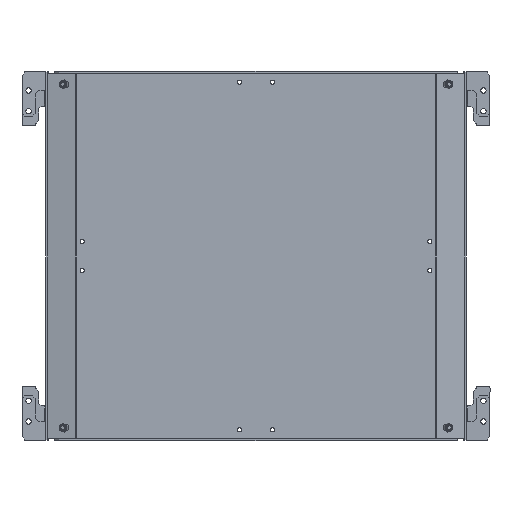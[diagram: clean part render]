
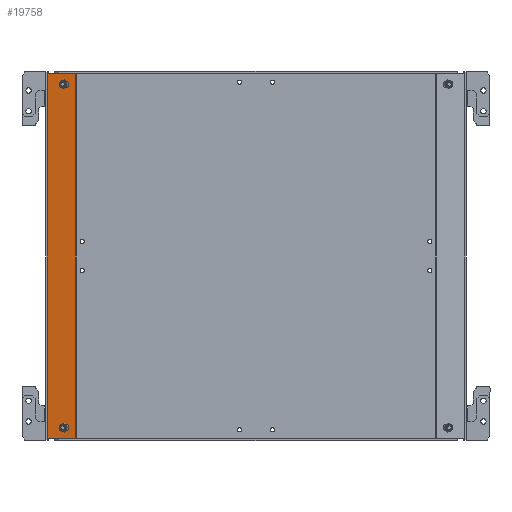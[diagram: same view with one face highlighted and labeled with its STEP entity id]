
A CAD part, left-side view. The second image highlights one B-rep face of the part: STEP entity #19758.
In plain terms, the highlighted planar face has unit normal (-0.985, 0.174, 0).
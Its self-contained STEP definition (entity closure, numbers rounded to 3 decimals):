
#72 = CARTESIAN_POINT ( 'NONE',  ( 1099.568, 231.306, 337.754 ) ) ;
#488 = DIRECTION ( 'NONE',  ( 0., 0., 1. ) ) ;
#585 = CARTESIAN_POINT ( 'NONE',  ( 1099.568, 231.306, -87.754 ) ) ;
#619 = LINE ( 'NONE', #23181, #22279 ) ;
#775 = LINE ( 'NONE', #24530, #4764 ) ;
#809 = VERTEX_POINT ( 'NONE', #19647 ) ;
#883 = EDGE_CURVE ( 'NONE', #23611, #2273, #3952, .T. ) ;
#1159 = LINE ( 'NONE', #9237, #14585 ) ;
#1186 = CARTESIAN_POINT ( 'NONE',  ( 1097.227, 218.028, -98.79 ) ) ;
#1764 = EDGE_CURVE ( 'NONE', #13448, #7759, #24297, .T. ) ;
#1798 = ORIENTED_EDGE ( 'NONE', *, *, #14458, .T. ) ;
#1878 = VECTOR ( 'NONE', #22446, 1000. ) ;
#1939 = VECTOR ( 'NONE', #12285, 1000. ) ;
#2087 = EDGE_LOOP ( 'NONE', ( #14485, #17576, #24304, #14539, #22186, #3738 ) ) ;
#2096 = CARTESIAN_POINT ( 'NONE',  ( 1103.304, 252.496, 125. ) ) ;
#2273 = VERTEX_POINT ( 'NONE', #14883 ) ;
#2472 = VECTOR ( 'NONE', #9526, 1000. ) ;
#2577 = CARTESIAN_POINT ( 'NONE',  ( 1100.358, 235.786, 329.873 ) ) ;
#3002 = VECTOR ( 'NONE', #4891, 1000. ) ;
#3206 = VERTEX_POINT ( 'NONE', #16652 ) ;
#3241 = EDGE_LOOP ( 'NONE', ( #23695, #4630, #15464, #5842, #17017, #4871 ) ) ;
#3437 = VECTOR ( 'NONE', #16903, 1000. ) ;
#3559 = EDGE_CURVE ( 'NONE', #19703, #17203, #16851, .T. ) ;
#3585 = CARTESIAN_POINT ( 'NONE',  ( 1098.778, 226.825, 329.873 ) ) ;
#3738 = ORIENTED_EDGE ( 'NONE', *, *, #883, .F. ) ;
#3952 = LINE ( 'NONE', #10045, #1939 ) ;
#4087 = FACE_BOUND ( 'NONE', #24885, .T. ) ;
#4119 = ORIENTED_EDGE ( 'NONE', *, *, #19627, .T. ) ;
#4154 = CARTESIAN_POINT ( 'NONE',  ( 1099.568, 231.306, -87.754 ) ) ;
#4253 = VECTOR ( 'NONE', #14434, 1000. ) ;
#4292 = CARTESIAN_POINT ( 'NONE',  ( 1102.867, 250.017, 345. ) ) ;
#4396 = CARTESIAN_POINT ( 'NONE',  ( 1099.568, 231.306, 327.246 ) ) ;
#4630 = ORIENTED_EDGE ( 'NONE', *, *, #18045, .T. ) ;
#4764 = VECTOR ( 'NONE', #12804, 1000. ) ;
#4871 = ORIENTED_EDGE ( 'NONE', *, *, #8366, .F. ) ;
#4891 = DIRECTION ( 'NONE',  ( 0.174, 0.985, 0. ) ) ;
#5007 = ORIENTED_EDGE ( 'NONE', *, *, #3559, .T. ) ;
#5437 = LINE ( 'NONE', #11639, #23174 ) ;
#5804 = EDGE_CURVE ( 'NONE', #24309, #9194, #775, .T. ) ;
#5842 = ORIENTED_EDGE ( 'NONE', *, *, #5804, .T. ) ;
#6061 = ORIENTED_EDGE ( 'NONE', *, *, #8273, .T. ) ;
#6206 = CARTESIAN_POINT ( 'NONE',  ( 1100.358, 235.786, 335.127 ) ) ;
#6511 = LINE ( 'NONE', #14175, #18844 ) ;
#6551 = CARTESIAN_POINT ( 'NONE',  ( 1099.568, 231.306, -77.246 ) ) ;
#7261 = DIRECTION ( 'NONE',  ( 0.15, 0.853, 0.5 ) ) ;
#7388 = VERTEX_POINT ( 'NONE', #585 ) ;
#7749 = VECTOR ( 'NONE', #24542, 1000. ) ;
#7759 = VERTEX_POINT ( 'NONE', #10615 ) ;
#7961 = DIRECTION ( 'NONE',  ( 0.15, 0.853, -0.5 ) ) ;
#8091 = VECTOR ( 'NONE', #12263, 1000. ) ;
#8213 = CARTESIAN_POINT ( 'NONE',  ( 1100.358, 235.786, -79.873 ) ) ;
#8273 = EDGE_CURVE ( 'NONE', #24208, #10126, #11355, .T. ) ;
#8366 = EDGE_CURVE ( 'NONE', #25849, #14814, #13077, .T. ) ;
#8737 = VECTOR ( 'NONE', #24271, 1000. ) ;
#9194 = VERTEX_POINT ( 'NONE', #23638 ) ;
#9237 = CARTESIAN_POINT ( 'NONE',  ( 1099.568, 231.306, 327.246 ) ) ;
#9446 = DIRECTION ( 'NONE',  ( 0.174, 0.985, 0. ) ) ;
#9526 = DIRECTION ( 'NONE',  ( -0.15, -0.853, -0.5 ) ) ;
#9789 = EDGE_CURVE ( 'NONE', #7759, #16787, #24261, .T. ) ;
#10028 = VECTOR ( 'NONE', #7961, 1000. ) ;
#10045 = CARTESIAN_POINT ( 'NONE',  ( 1100.358, 235.786, -79.873 ) ) ;
#10126 = VERTEX_POINT ( 'NONE', #11130 ) ;
#10166 = ORIENTED_EDGE ( 'NONE', *, *, #20774, .T. ) ;
#10615 = CARTESIAN_POINT ( 'NONE',  ( 1098.778, 226.825, -79.873 ) ) ;
#10777 = VECTOR ( 'NONE', #9446, 1000. ) ;
#11130 = CARTESIAN_POINT ( 'NONE',  ( 1098.778, 226.825, 329.873 ) ) ;
#11341 = VECTOR ( 'NONE', #12870, 1000. ) ;
#11355 = LINE ( 'NONE', #13201, #3437 ) ;
#11550 = EDGE_CURVE ( 'NONE', #3206, #24309, #23410, .T. ) ;
#11639 = CARTESIAN_POINT ( 'NONE',  ( 1103.304, 252.496, 125. ) ) ;
#12216 = LINE ( 'NONE', #4154, #4253 ) ;
#12263 = DIRECTION ( 'NONE',  ( 0., 0., 1. ) ) ;
#12285 = DIRECTION ( 'NONE',  ( 0., 0., -1. ) ) ;
#12296 = CARTESIAN_POINT ( 'NONE',  ( 1100.358, 235.786, 335.127 ) ) ;
#12804 = DIRECTION ( 'NONE',  ( 0.174, 0.985, 0. ) ) ;
#12870 = DIRECTION ( 'NONE',  ( 0.15, 0.853, -0.5 ) ) ;
#13077 = LINE ( 'NONE', #25056, #3002 ) ;
#13091 = VERTEX_POINT ( 'NONE', #4396 ) ;
#13201 = CARTESIAN_POINT ( 'NONE',  ( 1098.778, 226.825, 335.127 ) ) ;
#13448 = VERTEX_POINT ( 'NONE', #15193 ) ;
#13523 = EDGE_CURVE ( 'NONE', #9194, #14814, #5437, .T. ) ;
#13538 = CARTESIAN_POINT ( 'NONE',  ( 1098.778, 226.825, 335.127 ) ) ;
#13612 = DIRECTION ( 'NONE',  ( 0., 0., 1. ) ) ;
#14120 = FACE_OUTER_BOUND ( 'NONE', #3241, .T. ) ;
#14175 = CARTESIAN_POINT ( 'NONE',  ( 1103.413, 253.111, -95. ) ) ;
#14196 = CARTESIAN_POINT ( 'NONE',  ( 1097.227, 218.028, -95. ) ) ;
#14294 = VECTOR ( 'NONE', #13612, 1000. ) ;
#14434 = DIRECTION ( 'NONE',  ( -0.15, -0.853, 0.5 ) ) ;
#14458 = EDGE_CURVE ( 'NONE', #809, #19703, #18302, .T. ) ;
#14485 = ORIENTED_EDGE ( 'NONE', *, *, #21634, .F. ) ;
#14539 = ORIENTED_EDGE ( 'NONE', *, *, #23137, .F. ) ;
#14585 = VECTOR ( 'NONE', #7261, 1000. ) ;
#14631 = DIRECTION ( 'NONE',  ( -0.15, -0.853, -0.5 ) ) ;
#14814 = VERTEX_POINT ( 'NONE', #20381 ) ;
#14883 = CARTESIAN_POINT ( 'NONE',  ( 1100.358, 235.786, -85.127 ) ) ;
#15193 = CARTESIAN_POINT ( 'NONE',  ( 1098.778, 226.825, -85.127 ) ) ;
#15464 = ORIENTED_EDGE ( 'NONE', *, *, #11550, .T. ) ;
#15987 = CARTESIAN_POINT ( 'NONE',  ( 1099.568, 231.306, -77.246 ) ) ;
#16367 = EDGE_CURVE ( 'NONE', #25849, #20528, #6511, .T. ) ;
#16606 = DIRECTION ( 'NONE',  ( -0.985, 0.174, 0. ) ) ;
#16652 = CARTESIAN_POINT ( 'NONE',  ( 1097.227, 218.028, 345. ) ) ;
#16787 = VERTEX_POINT ( 'NONE', #15987 ) ;
#16851 = LINE ( 'NONE', #12296, #8737 ) ;
#16903 = DIRECTION ( 'NONE',  ( 0., 0., -1. ) ) ;
#17017 = ORIENTED_EDGE ( 'NONE', *, *, #13523, .T. ) ;
#17203 = VERTEX_POINT ( 'NONE', #72 ) ;
#17490 = CARTESIAN_POINT ( 'NONE',  ( 1092.736, 192.56, 345. ) ) ;
#17576 = ORIENTED_EDGE ( 'NONE', *, *, #9789, .F. ) ;
#17978 = EDGE_CURVE ( 'NONE', #17203, #24208, #19025, .T. ) ;
#18045 = EDGE_CURVE ( 'NONE', #20528, #3206, #21131, .T. ) ;
#18302 = LINE ( 'NONE', #2577, #8091 ) ;
#18844 = VECTOR ( 'NONE', #24308, 1000. ) ;
#19025 = LINE ( 'NONE', #21259, #2472 ) ;
#19259 = CARTESIAN_POINT ( 'NONE',  ( 1102.867, 250.017, -95. ) ) ;
#19627 = EDGE_CURVE ( 'NONE', #13091, #809, #1159, .T. ) ;
#19647 = CARTESIAN_POINT ( 'NONE',  ( 1100.358, 235.786, 329.873 ) ) ;
#19669 = DIRECTION ( 'NONE',  ( 0., 0., -1. ) ) ;
#19703 = VERTEX_POINT ( 'NONE', #6206 ) ;
#19758 = ADVANCED_FACE ( 'NONE', ( #14120, #22156, #4087 ), #20179, .T. ) ;
#20179 = PLANE ( 'NONE',  #23411 ) ;
#20381 = CARTESIAN_POINT ( 'NONE',  ( 1103.304, 252.496, -95. ) ) ;
#20528 = VERTEX_POINT ( 'NONE', #14196 ) ;
#20774 = EDGE_CURVE ( 'NONE', #10126, #13091, #21671, .T. ) ;
#21131 = LINE ( 'NONE', #1186, #14294 ) ;
#21164 = LINE ( 'NONE', #6551, #11341 ) ;
#21259 = CARTESIAN_POINT ( 'NONE',  ( 1099.568, 231.306, 337.754 ) ) ;
#21634 = EDGE_CURVE ( 'NONE', #16787, #23611, #21164, .T. ) ;
#21671 = LINE ( 'NONE', #3585, #10028 ) ;
#21771 = CARTESIAN_POINT ( 'NONE',  ( 1098.778, 226.825, -79.873 ) ) ;
#22062 = CARTESIAN_POINT ( 'NONE',  ( 1098.778, 226.825, -85.127 ) ) ;
#22156 = FACE_BOUND ( 'NONE', #2087, .T. ) ;
#22186 = ORIENTED_EDGE ( 'NONE', *, *, #26119, .F. ) ;
#22279 = VECTOR ( 'NONE', #14631, 1000. ) ;
#22446 = DIRECTION ( 'NONE',  ( 0., 0., 1. ) ) ;
#23065 = ORIENTED_EDGE ( 'NONE', *, *, #17978, .T. ) ;
#23137 = EDGE_CURVE ( 'NONE', #7388, #13448, #12216, .T. ) ;
#23174 = VECTOR ( 'NONE', #19669, 1000. ) ;
#23181 = CARTESIAN_POINT ( 'NONE',  ( 1100.358, 235.786, -85.127 ) ) ;
#23410 = LINE ( 'NONE', #17490, #10777 ) ;
#23411 = AXIS2_PLACEMENT_3D ( 'NONE', #2096, #16606, #488 ) ;
#23611 = VERTEX_POINT ( 'NONE', #8213 ) ;
#23638 = CARTESIAN_POINT ( 'NONE',  ( 1103.304, 252.496, 345. ) ) ;
#23695 = ORIENTED_EDGE ( 'NONE', *, *, #16367, .T. ) ;
#24208 = VERTEX_POINT ( 'NONE', #13538 ) ;
#24261 = LINE ( 'NONE', #21771, #7749 ) ;
#24271 = DIRECTION ( 'NONE',  ( -0.15, -0.853, 0.5 ) ) ;
#24297 = LINE ( 'NONE', #22062, #1878 ) ;
#24304 = ORIENTED_EDGE ( 'NONE', *, *, #1764, .F. ) ;
#24308 = DIRECTION ( 'NONE',  ( -0.174, -0.985, 0. ) ) ;
#24309 = VERTEX_POINT ( 'NONE', #4292 ) ;
#24530 = CARTESIAN_POINT ( 'NONE',  ( 1102.867, 250.017, 345. ) ) ;
#24542 = DIRECTION ( 'NONE',  ( 0.15, 0.853, 0.5 ) ) ;
#24885 = EDGE_LOOP ( 'NONE', ( #10166, #4119, #1798, #5007, #23065, #6061 ) ) ;
#25056 = CARTESIAN_POINT ( 'NONE',  ( 1103.304, 252.496, -95. ) ) ;
#25849 = VERTEX_POINT ( 'NONE', #19259 ) ;
#26119 = EDGE_CURVE ( 'NONE', #2273, #7388, #619, .T. ) ;
